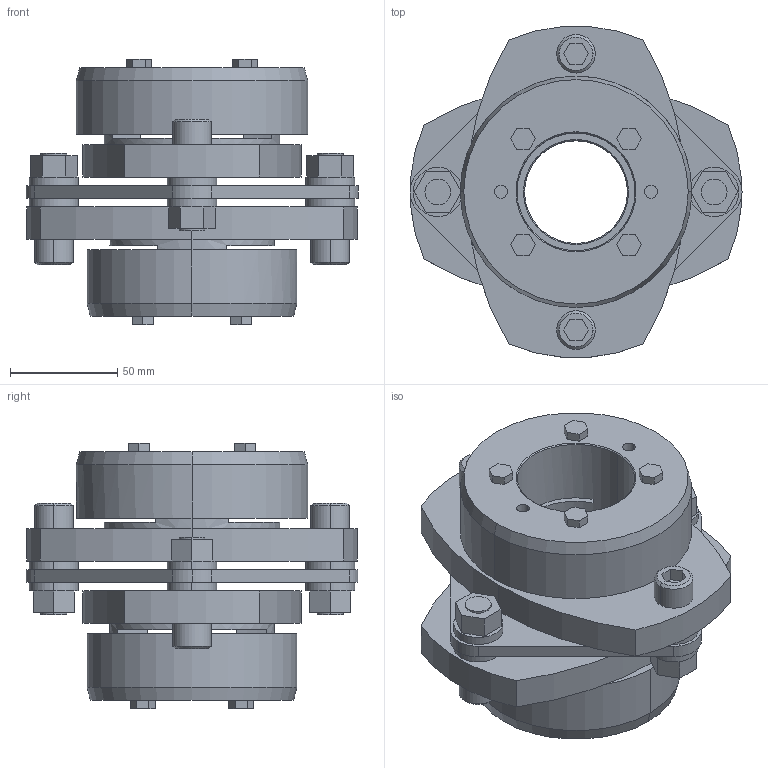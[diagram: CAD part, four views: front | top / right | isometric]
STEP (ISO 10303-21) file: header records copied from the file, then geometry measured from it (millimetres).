
FILE_DESCRIPTION((''),'2;1');
FILE_NAME('LCS-155T7-48×55.stp','2015-10-28T09:29:04',(''),(''),'AutoCAD STEP 2000i','AutoCAD 2000i',', , ');
FILE_SCHEMA(('CONFIG_CONTROL_DESIGN'));
Length unit declared in the file: millimetre
Products named in the file (8): LCS-155T7-50×55; 忣兜1; LC155T7-T055; LC155T7-T050-1; LC155T7-T050; LC155T7-T045-1; LC155T7-T045; LCS155-ITA
Assembly tree (7 placements, depth 2):
  LCS-155T7-50×55
    忣兜1
    LC155T7-T055
    LC155T7-T050-1
    LC155T7-T050
    LC155T7-T045-1
    LC155T7-T045
    LCS155-ITA
Bounding box: 155 x 154.9 x 124 mm (x, y, z)
Volume: 841759.6 mm3; surface area: 147878.9 mm2
Topology: 1 solids, 1 shells, 246 faces, 606 edges, 398 vertices
Faces by surface type: plane 146, cylinder 80, cone 20
Entity records: 7513 total; most frequent: DIRECTION 1312, CARTESIAN_POINT 1258, ORIENTED_EDGE 1212, EDGE_CURVE 606, AXIS2_PLACEMENT_3D 452, VECTOR 408, LINE 408, VERTEX_POINT 398
